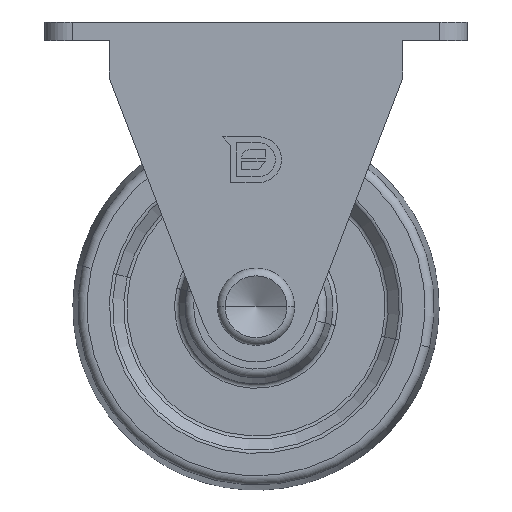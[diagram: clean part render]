
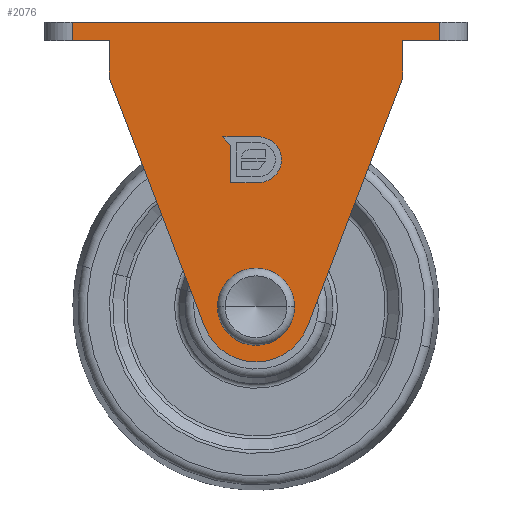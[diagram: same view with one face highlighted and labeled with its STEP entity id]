
A CAD part, top view. The second image highlights one B-rep face of the part: STEP entity #2076.
In plain terms, the highlighted planar face has unit normal (0, 0, 1).
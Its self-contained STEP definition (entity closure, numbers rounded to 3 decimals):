
#6 = EDGE_CURVE ( 'NONE', #3176, #2216, #3238, .T. ) ;
#28 = DIRECTION ( 'NONE',  ( 0., 0., 1. ) ) ;
#35 = VERTEX_POINT ( 'NONE', #1841 ) ;
#38 = CARTESIAN_POINT ( 'NONE',  ( -20., -2., 13. ) ) ;
#45 = CARTESIAN_POINT ( 'NONE',  ( 16., -6., 13. ) ) ;
#67 = DIRECTION ( 'NONE',  ( 0., 0., 1. ) ) ;
#76 = EDGE_LOOP ( 'NONE', ( #3356, #1012, #2392, #2826, #1465, #1155, #1720, #3424, #991, #2179 ) ) ;
#99 = CARTESIAN_POINT ( 'NONE',  ( 3.253, -31., 13. ) ) ;
#126 = EDGE_CURVE ( 'NONE', #2725, #2843, #2660, .T. ) ;
#148 = VERTEX_POINT ( 'NONE', #1053 ) ;
#153 = DIRECTION ( 'NONE',  ( 1., 0., 0. ) ) ;
#167 = DIRECTION ( 'NONE',  ( 1., 0., 0. ) ) ;
#180 = CIRCLE ( 'NONE', #655, 2.492 ) ;
#321 = EDGE_CURVE ( 'NONE', #2372, #1754, #180, .T. ) ;
#325 = FACE_BOUND ( 'NONE', #457, .T. ) ;
#339 = DIRECTION ( 'NONE',  ( 0., 1., 0. ) ) ;
#421 = VERTEX_POINT ( 'NONE', #3354 ) ;
#434 = CARTESIAN_POINT ( 'NONE',  ( -16., -6., 13. ) ) ;
#457 = EDGE_LOOP ( 'NONE', ( #3154, #1971 ) ) ;
#520 = LINE ( 'NONE', #3577, #1985 ) ;
#543 = EDGE_CURVE ( 'NONE', #3561, #2851, #847, .T. ) ;
#559 = ORIENTED_EDGE ( 'NONE', *, *, #1436, .T. ) ;
#595 = DIRECTION ( 'NONE',  ( 1., 0., 0. ) ) ;
#605 = VECTOR ( 'NONE', #1435, 1000. ) ;
#612 = LINE ( 'NONE', #38, #1986 ) ;
#655 = AXIS2_PLACEMENT_3D ( 'NONE', #3399, #67, #2521 ) ;
#661 = CARTESIAN_POINT ( 'NONE',  ( -16., -6., 13. ) ) ;
#688 = LINE ( 'NONE', #1834, #2975 ) ;
#705 = VECTOR ( 'NONE', #2882, 1000. ) ;
#724 = CARTESIAN_POINT ( 'NONE',  ( 20., -2., 13. ) ) ;
#741 = DIRECTION ( 'NONE',  ( 0., 0., 1. ) ) ;
#769 = AXIS2_PLACEMENT_3D ( 'NONE', #1978, #3098, #595 ) ;
#815 = EDGE_CURVE ( 'NONE', #1147, #3561, #1990, .T. ) ;
#847 = LINE ( 'NONE', #912, #2739 ) ;
#870 = DIRECTION ( 'NONE',  ( 1., 0., 0. ) ) ;
#890 = EDGE_CURVE ( 'NONE', #2843, #1147, #3600, .T. ) ;
#892 = VECTOR ( 'NONE', #2473, 1000. ) ;
#912 = CARTESIAN_POINT ( 'NONE',  ( 16., -2., 13. ) ) ;
#951 = CARTESIAN_POINT ( 'NONE',  ( -8.202, -7.382, 13. ) ) ;
#991 = ORIENTED_EDGE ( 'NONE', *, *, #2112, .T. ) ;
#1012 = ORIENTED_EDGE ( 'NONE', *, *, #2994, .T. ) ;
#1053 = CARTESIAN_POINT ( 'NONE',  ( -16., -2., 13. ) ) ;
#1056 = CIRCLE ( 'NONE', #1622, 2.492 ) ;
#1113 = VECTOR ( 'NONE', #870, 1000. ) ;
#1145 = DIRECTION ( 'NONE',  ( 0.358, 0.934, 0. ) ) ;
#1147 = VERTEX_POINT ( 'NONE', #2717 ) ;
#1149 = FACE_BOUND ( 'NONE', #3076, .T. ) ;
#1155 = ORIENTED_EDGE ( 'NONE', *, *, #890, .T. ) ;
#1191 = PLANE ( 'NONE',  #2123 ) ;
#1201 = EDGE_CURVE ( 'NONE', #2298, #3151, #2383, .T. ) ;
#1235 = CARTESIAN_POINT ( 'NONE',  ( 0.369, -12.5, 13. ) ) ;
#1239 = VECTOR ( 'NONE', #2942, 1000. ) ;
#1275 = CARTESIAN_POINT ( 'NONE',  ( 0.275, -14.99, 13. ) ) ;
#1287 = CARTESIAN_POINT ( 'NONE',  ( 20., 0., 13. ) ) ;
#1373 = VERTEX_POINT ( 'NONE', #2288 ) ;
#1395 = AXIS2_PLACEMENT_3D ( 'NONE', #3555, #3575, #1920 ) ;
#1400 = DIRECTION ( 'NONE',  ( 0., 1., 0. ) ) ;
#1412 = LINE ( 'NONE', #3108, #3616 ) ;
#1418 = CARTESIAN_POINT ( 'NONE',  ( 0., -31., 13. ) ) ;
#1435 = DIRECTION ( 'NONE',  ( 1., 0., 0. ) ) ;
#1436 = EDGE_CURVE ( 'NONE', #35, #2658, #2639, .T. ) ;
#1454 = FACE_OUTER_BOUND ( 'NONE', #76, .T. ) ;
#1465 = ORIENTED_EDGE ( 'NONE', *, *, #126, .T. ) ;
#1467 = DIRECTION ( 'NONE',  ( 0., -1., 0. ) ) ;
#1473 = CARTESIAN_POINT ( 'NONE',  ( -2.766, -13.422, 13. ) ) ;
#1533 = DIRECTION ( 'NONE',  ( 0., 1., 0. ) ) ;
#1622 = AXIS2_PLACEMENT_3D ( 'NONE', #1275, #741, #167 ) ;
#1627 = EDGE_CURVE ( 'NONE', #2216, #1373, #2752, .T. ) ;
#1642 = VECTOR ( 'NONE', #1145, 1000. ) ;
#1673 = ORIENTED_EDGE ( 'NONE', *, *, #321, .F. ) ;
#1720 = ORIENTED_EDGE ( 'NONE', *, *, #815, .T. ) ;
#1728 = DIRECTION ( 'NONE',  ( 0., 0., 1. ) ) ;
#1749 = CARTESIAN_POINT ( 'NONE',  ( 23., -2., 13. ) ) ;
#1754 = VERTEX_POINT ( 'NONE', #1235 ) ;
#1833 = ORIENTED_EDGE ( 'NONE', *, *, #2547, .T. ) ;
#1834 = CARTESIAN_POINT ( 'NONE',  ( -16., -2., 13. ) ) ;
#1836 = DIRECTION ( 'NONE',  ( -1., 0., 0. ) ) ;
#1841 = CARTESIAN_POINT ( 'NONE',  ( 0.369, -17.48, 13. ) ) ;
#1890 = DIRECTION ( 'NONE',  ( 0., -1., 0. ) ) ;
#1917 = VECTOR ( 'NONE', #1533, 1000. ) ;
#1920 = DIRECTION ( 'NONE',  ( 1., 0., 0. ) ) ;
#1967 = DIRECTION ( 'NONE',  ( 1., 0., 0. ) ) ;
#1971 = ORIENTED_EDGE ( 'NONE', *, *, #1201, .T. ) ;
#1978 = CARTESIAN_POINT ( 'NONE',  ( 0., -31., 13. ) ) ;
#1985 = VECTOR ( 'NONE', #1890, 1000. ) ;
#1986 = VECTOR ( 'NONE', #1467, 1000. ) ;
#1990 = LINE ( 'NONE', #45, #1642 ) ;
#2039 = ORIENTED_EDGE ( 'NONE', *, *, #3119, .T. ) ;
#2070 = CARTESIAN_POINT ( 'NONE',  ( -3.253, -31., 13. ) ) ;
#2076 = ADVANCED_FACE ( 'NONE', ( #1149, #1454, #325 ), #1191, .T. ) ;
#2112 = EDGE_CURVE ( 'NONE', #2851, #3176, #2250, .T. ) ;
#2123 = AXIS2_PLACEMENT_3D ( 'NONE', #1418, #28, #1967 ) ;
#2179 = ORIENTED_EDGE ( 'NONE', *, *, #6, .T. ) ;
#2216 = VERTEX_POINT ( 'NONE', #1287 ) ;
#2222 = LINE ( 'NONE', #2259, #1113 ) ;
#2230 = CARTESIAN_POINT ( 'NONE',  ( 0., -31., 13. ) ) ;
#2250 = LINE ( 'NONE', #1749, #605 ) ;
#2259 = CARTESIAN_POINT ( 'NONE',  ( 0., -12.5, 13. ) ) ;
#2288 = CARTESIAN_POINT ( 'NONE',  ( -20., 0., 13. ) ) ;
#2298 = VERTEX_POINT ( 'NONE', #2070 ) ;
#2322 = CARTESIAN_POINT ( 'NONE',  ( 0., -17.48, 13. ) ) ;
#2372 = VERTEX_POINT ( 'NONE', #3019 ) ;
#2383 = CIRCLE ( 'NONE', #1395, 3.253 ) ;
#2389 = EDGE_CURVE ( 'NONE', #148, #2725, #520, .T. ) ;
#2392 = ORIENTED_EDGE ( 'NONE', *, *, #3126, .T. ) ;
#2473 = DIRECTION ( 'NONE',  ( -1., 0., 0. ) ) ;
#2500 = CIRCLE ( 'NONE', #769, 3.253 ) ;
#2517 = CARTESIAN_POINT ( 'NONE',  ( -20., -2., 13. ) ) ;
#2521 = DIRECTION ( 'NONE',  ( 1., 0., 0. ) ) ;
#2547 = EDGE_CURVE ( 'NONE', #2658, #2618, #1412, .T. ) ;
#2612 = AXIS2_PLACEMENT_3D ( 'NONE', #2230, #1728, #3357 ) ;
#2618 = VERTEX_POINT ( 'NONE', #1473 ) ;
#2639 = LINE ( 'NONE', #2322, #3551 ) ;
#2658 = VERTEX_POINT ( 'NONE', #3473 ) ;
#2660 = LINE ( 'NONE', #661, #705 ) ;
#2687 = CARTESIAN_POINT ( 'NONE',  ( 16., -2., 13. ) ) ;
#2717 = CARTESIAN_POINT ( 'NONE',  ( 5.603, -33.146, 13. ) ) ;
#2723 = ORIENTED_EDGE ( 'NONE', *, *, #2974, .T. ) ;
#2725 = VERTEX_POINT ( 'NONE', #434 ) ;
#2739 = VECTOR ( 'NONE', #1400, 1000. ) ;
#2752 = LINE ( 'NONE', #3413, #892 ) ;
#2826 = ORIENTED_EDGE ( 'NONE', *, *, #2389, .T. ) ;
#2843 = VERTEX_POINT ( 'NONE', #3285 ) ;
#2851 = VERTEX_POINT ( 'NONE', #2687 ) ;
#2882 = DIRECTION ( 'NONE',  ( 0.358, -0.934, 0. ) ) ;
#2941 = VERTEX_POINT ( 'NONE', #2517 ) ;
#2942 = DIRECTION ( 'NONE',  ( -0.669, 0.743, 0. ) ) ;
#2948 = CARTESIAN_POINT ( 'NONE',  ( 20., 0., 13. ) ) ;
#2970 = CARTESIAN_POINT ( 'NONE',  ( 16., -6., 13. ) ) ;
#2974 = EDGE_CURVE ( 'NONE', #421, #1754, #2222, .T. ) ;
#2975 = VECTOR ( 'NONE', #153, 1000. ) ;
#2994 = EDGE_CURVE ( 'NONE', #1373, #2941, #612, .T. ) ;
#2998 = EDGE_CURVE ( 'NONE', #3151, #2298, #2500, .T. ) ;
#3019 = CARTESIAN_POINT ( 'NONE',  ( 2.766, -14.99, 13. ) ) ;
#3076 = EDGE_LOOP ( 'NONE', ( #3378, #559, #1833, #2039, #2723, #1673 ) ) ;
#3098 = DIRECTION ( 'NONE',  ( 0., 0., -1. ) ) ;
#3108 = CARTESIAN_POINT ( 'NONE',  ( -2.766, 0., 13. ) ) ;
#3119 = EDGE_CURVE ( 'NONE', #2618, #421, #3487, .T. ) ;
#3126 = EDGE_CURVE ( 'NONE', #2941, #148, #688, .T. ) ;
#3151 = VERTEX_POINT ( 'NONE', #99 ) ;
#3154 = ORIENTED_EDGE ( 'NONE', *, *, #2998, .T. ) ;
#3176 = VERTEX_POINT ( 'NONE', #724 ) ;
#3214 = EDGE_CURVE ( 'NONE', #35, #2372, #1056, .T. ) ;
#3238 = LINE ( 'NONE', #2948, #1917 ) ;
#3285 = CARTESIAN_POINT ( 'NONE',  ( -5.603, -33.146, 13. ) ) ;
#3354 = CARTESIAN_POINT ( 'NONE',  ( -3.596, -12.5, 13. ) ) ;
#3356 = ORIENTED_EDGE ( 'NONE', *, *, #1627, .T. ) ;
#3357 = DIRECTION ( 'NONE',  ( 1., 0., 0. ) ) ;
#3378 = ORIENTED_EDGE ( 'NONE', *, *, #3214, .F. ) ;
#3399 = CARTESIAN_POINT ( 'NONE',  ( 0.275, -14.99, 13. ) ) ;
#3413 = CARTESIAN_POINT ( 'NONE',  ( -23., 0., 13. ) ) ;
#3424 = ORIENTED_EDGE ( 'NONE', *, *, #543, .T. ) ;
#3473 = CARTESIAN_POINT ( 'NONE',  ( -2.766, -17.48, 13. ) ) ;
#3487 = LINE ( 'NONE', #951, #1239 ) ;
#3551 = VECTOR ( 'NONE', #1836, 1000. ) ;
#3555 = CARTESIAN_POINT ( 'NONE',  ( 0., -31., 13. ) ) ;
#3561 = VERTEX_POINT ( 'NONE', #2970 ) ;
#3575 = DIRECTION ( 'NONE',  ( 0., 0., -1. ) ) ;
#3577 = CARTESIAN_POINT ( 'NONE',  ( -16., -2., 13. ) ) ;
#3600 = CIRCLE ( 'NONE', #2612, 6. ) ;
#3616 = VECTOR ( 'NONE', #339, 1000. ) ;
